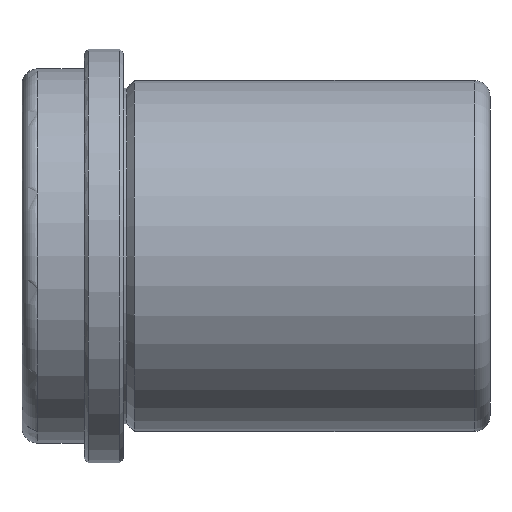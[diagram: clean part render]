
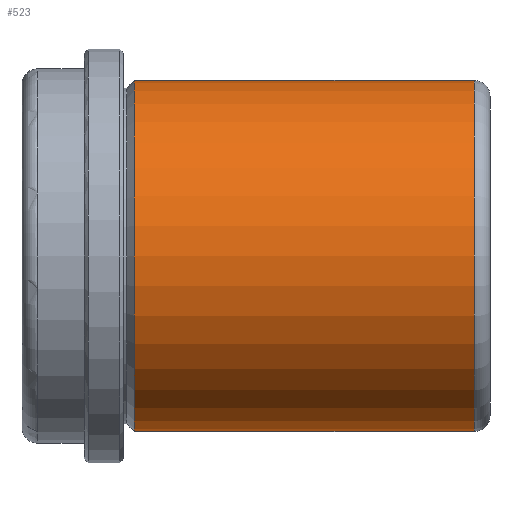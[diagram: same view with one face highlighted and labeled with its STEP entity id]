
A CAD part, front view. The second image highlights one B-rep face of the part: STEP entity #523.
In plain terms, the highlighted cylindrical face has radius 22.5 mm (diameter 45 mm), a partial arc.
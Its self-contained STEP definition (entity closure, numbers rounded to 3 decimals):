
#312=CARTESIAN_POINT('Line Origine',(47.,0.,22.5)) ;
#316=CARTESIAN_POINT('Vertex',(45.,0.,22.5)) ;
#318=CARTESIAN_POINT('Vertex',(1.414,0.,22.5)) ;
#332=CARTESIAN_POINT('Vertex',(45.,0.,-22.5)) ;
#335=CARTESIAN_POINT('Line Origine',(47.,0.,-22.5)) ;
#339=CARTESIAN_POINT('Vertex',(1.414,0.,-22.5)) ;
#486=CARTESIAN_POINT('Axis2P3D Location',(47.,0.,0.)) ;
#491=CARTESIAN_POINT('Axis2P3D Location',(45.,0.,0.)) ;
#495=CARTESIAN_POINT('Vertex',(45.,-22.5,0.)) ;
#498=CARTESIAN_POINT('Axis2P3D Location',(45.,0.,0.)) ;
#503=CARTESIAN_POINT('Axis2P3D Location',(1.414,0.,0.)) ;
#507=CARTESIAN_POINT('Vertex',(1.414,-22.5,0.)) ;
#510=CARTESIAN_POINT('Axis2P3D Location',(1.414,0.,0.)) ;
#313=DIRECTION('Vector Direction',(-1.,0.,0.)) ;
#336=DIRECTION('Vector Direction',(-1.,0.,0.)) ;
#487=DIRECTION('Axis2P3D Direction',(-1.,-0.,-0.)) ;
#488=DIRECTION('Axis2P3D XDirection',(0.,0.,-1.)) ;
#492=DIRECTION('Axis2P3D Direction',(-1.,-0.,-0.)) ;
#499=DIRECTION('Axis2P3D Direction',(-1.,-0.,-0.)) ;
#504=DIRECTION('Axis2P3D Direction',(-1.,-0.,-0.)) ;
#511=DIRECTION('Axis2P3D Direction',(-1.,-0.,-0.)) ;
#489=AXIS2_PLACEMENT_3D('Cylinder Axis2P3D',#486,#487,#488) ;
#493=AXIS2_PLACEMENT_3D('Circle Axis2P3D',#491,#492,$) ;
#500=AXIS2_PLACEMENT_3D('Circle Axis2P3D',#498,#499,$) ;
#505=AXIS2_PLACEMENT_3D('Circle Axis2P3D',#503,#504,$) ;
#512=AXIS2_PLACEMENT_3D('Circle Axis2P3D',#510,#511,$) ;
#516=ORIENTED_EDGE('',*,*,#341,.T.) ;
#517=ORIENTED_EDGE('',*,*,#497,.F.) ;
#518=ORIENTED_EDGE('',*,*,#502,.F.) ;
#519=ORIENTED_EDGE('',*,*,#320,.T.) ;
#520=ORIENTED_EDGE('',*,*,#509,.T.) ;
#521=ORIENTED_EDGE('',*,*,#514,.T.) ;
#314=VECTOR('Line Direction',#313,1.) ;
#337=VECTOR('Line Direction',#336,1.) ;
#523=ADVANCED_FACE('FAMO-SF1-B30 x 60',(#522),#490,.T.) ;
#494=CIRCLE('generated circle',#493,22.5) ;
#501=CIRCLE('generated circle',#500,22.5) ;
#506=CIRCLE('generated circle',#505,22.5) ;
#513=CIRCLE('generated circle',#512,22.5) ;
#490=CYLINDRICAL_SURFACE('generated cylinder',#489,22.5) ;
#320=EDGE_CURVE('',#317,#319,#315,.T.) ;
#341=EDGE_CURVE('',#340,#333,#338,.F.) ;
#497=EDGE_CURVE('',#496,#333,#494,.F.) ;
#502=EDGE_CURVE('',#317,#496,#501,.F.) ;
#509=EDGE_CURVE('',#319,#508,#506,.F.) ;
#514=EDGE_CURVE('',#508,#340,#513,.F.) ;
#515=EDGE_LOOP('',(#516,#517,#518,#519,#520,#521)) ;
#522=FACE_OUTER_BOUND('',#515,.T.) ;
#315=LINE('Line',#312,#314) ;
#338=LINE('Line',#335,#337) ;
#317=VERTEX_POINT('',#316) ;
#319=VERTEX_POINT('',#318) ;
#333=VERTEX_POINT('',#332) ;
#340=VERTEX_POINT('',#339) ;
#496=VERTEX_POINT('',#495) ;
#508=VERTEX_POINT('',#507) ;
